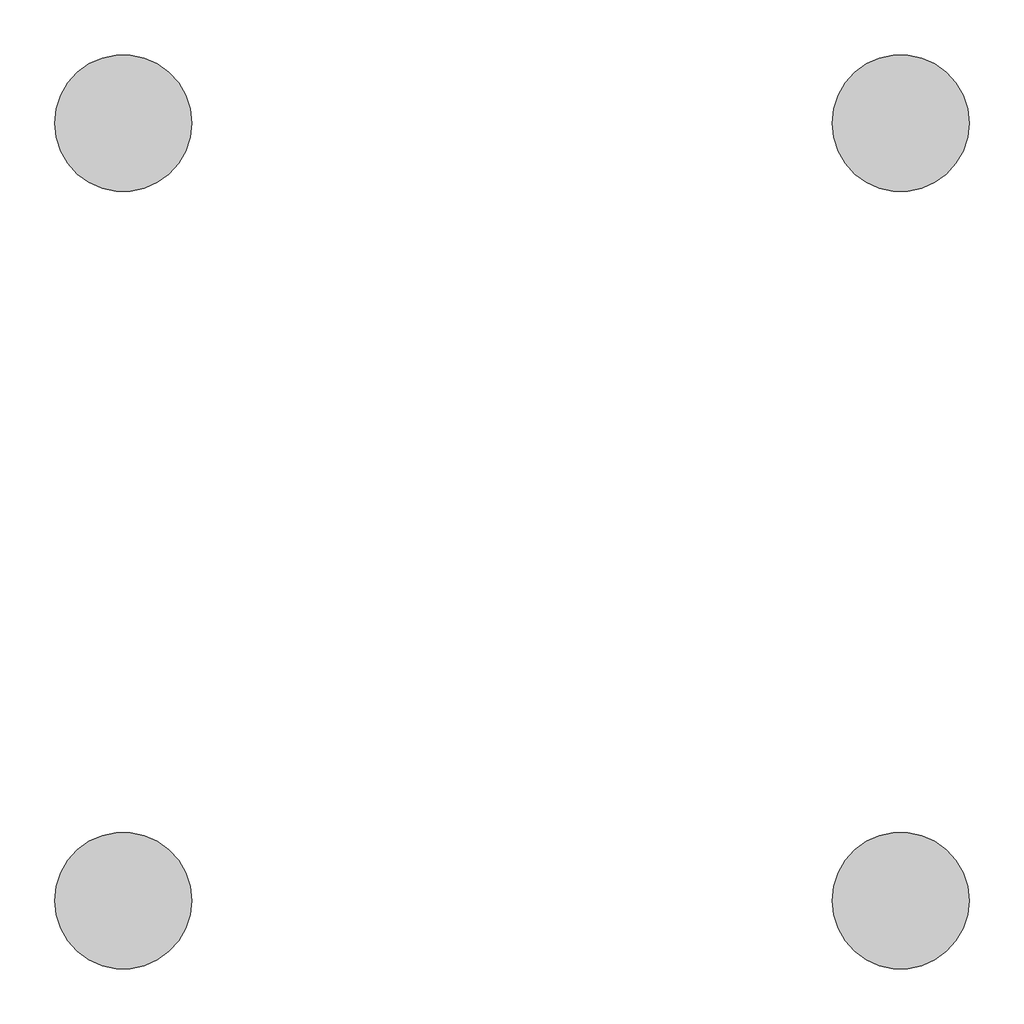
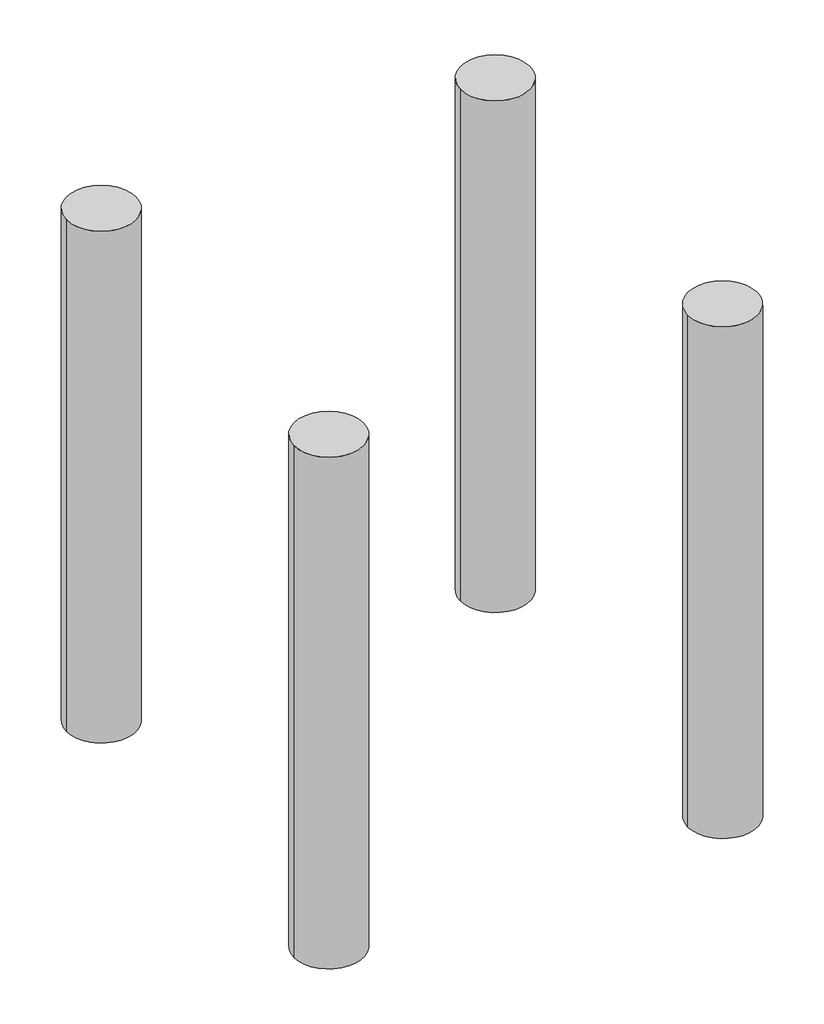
# One storey, incomplete: 4 proxies.
"""IFC4 building model written with IfcOpenShell, lengths in millimetres."""

from ifc_helpers import new_model, si_unit, origin, place, context, project, spatial, transform, mapped, element, save
from components import abs_plus_pipe_pipe_c0d7c5e6

model = new_model("IFC4")

# Units and contexts
model_context = context("Model", 3, world=origin())
ifc_project = project(units=[si_unit("LENGTHUNIT", "METRE", prefix="MILLI")], contexts=[model_context])

# Site, building, storey
site = spatial("IfcSite", under=ifc_project)
building = spatial("IfcBuilding", under=site)
storey = spatial("IfcBuildingStorey", under=building, Name="+000 KOTU", Elevation=0.0)

# Proxies
placement = place(None, origin())
abs_plus_pipe_pipe_shape = abs_plus_pipe_pipe_c0d7c5e6(model_context)
element("IfcBuildingElementProxy", 1, Name="ABS Plus - Pipe : Pipe", ObjectType="ABS Plus - Pipe : Pipe", at=placement, inside=storey, context=model_context, shape_type="MappedRepresentation", body=[
    mapped(abs_plus_pipe_pipe_shape, transform((-4137.7833497, 1962.3543444, 0.0), x_axis=(1.0, 0.0, 0.0), y_axis=(0.0, 1.0, 0.0), z_axis=(0.0, 0.0, 1.0))),
])
element("IfcBuildingElementProxy", 2, Name="ABS Plus - Pipe : Pipe", ObjectType="ABS Plus - Pipe : Pipe", at=placement, inside=storey, context=model_context, shape_type="MappedRepresentation", body=[
    mapped(abs_plus_pipe_pipe_shape, transform((-3427.7833497, 1962.3543444, 0.0), x_axis=(1.0, 0.0, 0.0), y_axis=(0.0, 1.0, 0.0), z_axis=(0.0, 0.0, 1.0))),
])
element("IfcBuildingElementProxy", 3, Name="ABS Plus - Pipe : Pipe", ObjectType="ABS Plus - Pipe : Pipe", at=placement, inside=storey, context=model_context, shape_type="MappedRepresentation", body=[
    mapped(abs_plus_pipe_pipe_shape, transform((-3427.7833497, 1252.3543444, 0.0), x_axis=(1.0, 0.0, 0.0), y_axis=(0.0, 1.0, 0.0), z_axis=(0.0, 0.0, 1.0))),
])
element("IfcBuildingElementProxy", 4, Name="ABS Plus - Pipe : Pipe", ObjectType="ABS Plus - Pipe : Pipe", at=placement, inside=storey, context=model_context, shape_type="MappedRepresentation", body=[
    mapped(abs_plus_pipe_pipe_shape, transform((-4137.7833497, 1252.3543444, 0.0), x_axis=(1.0, 0.0, 0.0), y_axis=(0.0, 1.0, 0.0), z_axis=(0.0, 0.0, 1.0))),
])

save(model, "model.ifc")
